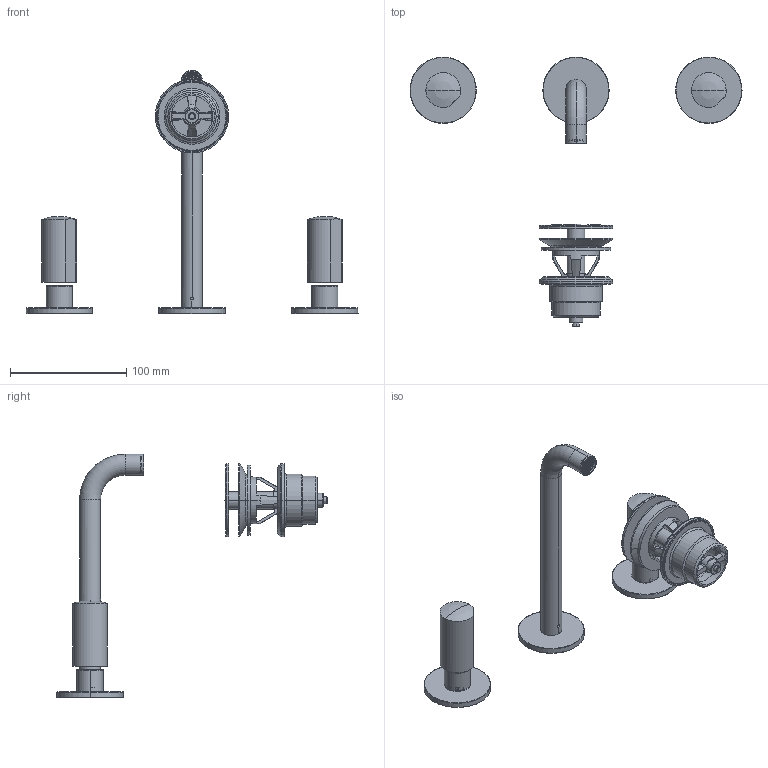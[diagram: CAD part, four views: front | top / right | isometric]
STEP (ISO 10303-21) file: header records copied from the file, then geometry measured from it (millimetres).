
FILE_DESCRIPTION((''),'2;1');
FILE_NAME('F3191L_5','2019-04-11T',('ivanv'),(''),'CREO PARAMETRIC BY PTC INC, 2016260','CREO PARAMETRIC BY PTC INC, 2016260','');
FILE_SCHEMA(('CONFIG_CONTROL_DESIGN'));
Length unit declared in the file: millimetre
Products named in the file (1): F3191L_5
Bounding box: 285 x 232 x 209 mm (x, y, z)
Volume: 142426.6 mm3; surface area: 105358.8 mm2
Topology: 6 solids, 7 shells, 2434 faces, 6559 edges, 4161 vertices
Faces by surface type: plane 1722, cylinder 462, cone 94, torus 90, bspline 60, sphere 6
Entity records: 104034 total; most frequent: CARTESIAN_POINT 47625, ORIENTED_EDGE 13102, DIRECTION 9353, EDGE_CURVE 6551, VERTEX_POINT 4161, VECTOR 3137, LINE 3137, AXIS2_PLACEMENT_3D 3108
